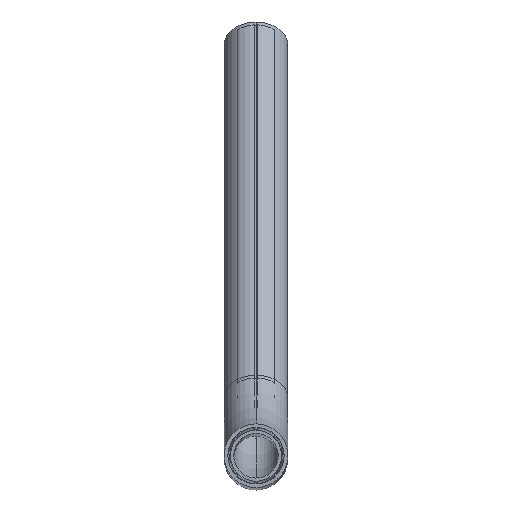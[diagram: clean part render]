
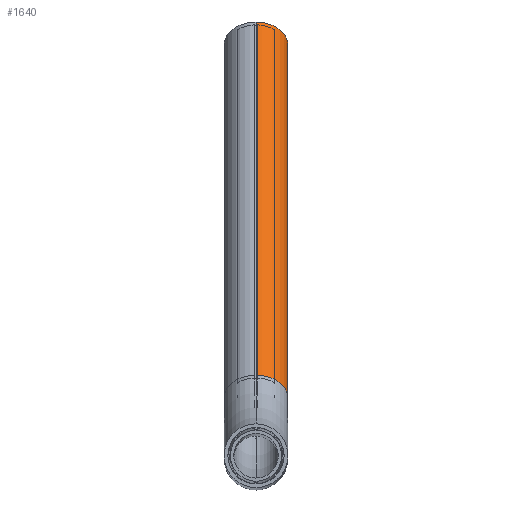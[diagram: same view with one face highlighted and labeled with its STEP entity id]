
A CAD part, top view. The second image highlights one B-rep face of the part: STEP entity #1640.
In plain terms, the highlighted cylindrical face has radius 20 mm (diameter 40 mm), a partial arc.
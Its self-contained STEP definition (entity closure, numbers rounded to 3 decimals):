
#177 = CARTESIAN_POINT ( 'NONE',  ( 0., 38.076, -271.924 ) ) ;
#224 = ORIENTED_EDGE ( 'NONE', *, *, #3308, .T. ) ;
#285 = VERTEX_POINT ( 'NONE', #1970 ) ;
#355 = EDGE_CURVE ( 'NONE', #1406, #285, #3175, .T. ) ;
#423 = DIRECTION ( 'NONE',  ( 0., 0.707, -0.707 ) ) ;
#425 = DIRECTION ( 'NONE',  ( 1., 0., 0. ) ) ;
#466 = ORIENTED_EDGE ( 'NONE', *, *, #355, .F. ) ;
#511 = EDGE_CURVE ( 'NONE', #285, #2092, #2163, .T. ) ;
#597 = AXIS2_PLACEMENT_3D ( 'NONE', #177, #1232, #644 ) ;
#626 = VECTOR ( 'NONE', #423, 1000. ) ;
#636 = CARTESIAN_POINT ( 'NONE',  ( 0., 23.934, -286.066 ) ) ;
#644 = DIRECTION ( 'NONE',  ( 1., 0., 0. ) ) ;
#710 = VECTOR ( 'NONE', #2921, 1000. ) ;
#864 = CARTESIAN_POINT ( 'NONE',  ( 0., 38.076, -271.924 ) ) ;
#971 = LINE ( 'NONE', #3162, #626 ) ;
#1215 = AXIS2_PLACEMENT_3D ( 'NONE', #1784, #2876, #425 ) ;
#1232 = DIRECTION ( 'NONE',  ( 0., -0.707, 0.707 ) ) ;
#1398 = CIRCLE ( 'NONE', #1215, 20. ) ;
#1406 = VERTEX_POINT ( 'NONE', #636 ) ;
#1509 = EDGE_CURVE ( 'NONE', #2086, #2092, #1398, .T. ) ;
#1640 = ADVANCED_FACE ( 'NONE', ( #2246 ), #2210, .T. ) ;
#1674 = ORIENTED_EDGE ( 'NONE', *, *, #511, .F. ) ;
#1676 = AXIS2_PLACEMENT_3D ( 'NONE', #864, #3370, #3327 ) ;
#1784 = CARTESIAN_POINT ( 'NONE',  ( 0., 260., -493.848 ) ) ;
#1970 = CARTESIAN_POINT ( 'NONE',  ( 0., 52.218, -257.782 ) ) ;
#2086 = VERTEX_POINT ( 'NONE', #3248 ) ;
#2092 = VERTEX_POINT ( 'NONE', #3481 ) ;
#2163 = LINE ( 'NONE', #3480, #710 ) ;
#2210 = CYLINDRICAL_SURFACE ( 'NONE', #1676, 20. ) ;
#2246 = FACE_OUTER_BOUND ( 'NONE', #2660, .T. ) ;
#2660 = EDGE_LOOP ( 'NONE', ( #466, #224, #3145, #1674 ) ) ;
#2876 = DIRECTION ( 'NONE',  ( 0., -0.707, 0.707 ) ) ;
#2921 = DIRECTION ( 'NONE',  ( 0., 0.707, -0.707 ) ) ;
#3145 = ORIENTED_EDGE ( 'NONE', *, *, #1509, .T. ) ;
#3162 = CARTESIAN_POINT ( 'NONE',  ( 0., 23.934, -286.066 ) ) ;
#3175 = CIRCLE ( 'NONE', #597, 20. ) ;
#3248 = CARTESIAN_POINT ( 'NONE',  ( 0., 245.858, -507.99 ) ) ;
#3308 = EDGE_CURVE ( 'NONE', #1406, #2086, #971, .T. ) ;
#3327 = DIRECTION ( 'NONE',  ( 0., 0.707, 0.707 ) ) ;
#3370 = DIRECTION ( 'NONE',  ( 0., 0.707, -0.707 ) ) ;
#3480 = CARTESIAN_POINT ( 'NONE',  ( 0., 52.218, -257.782 ) ) ;
#3481 = CARTESIAN_POINT ( 'NONE',  ( 0., 274.142, -479.706 ) ) ;
